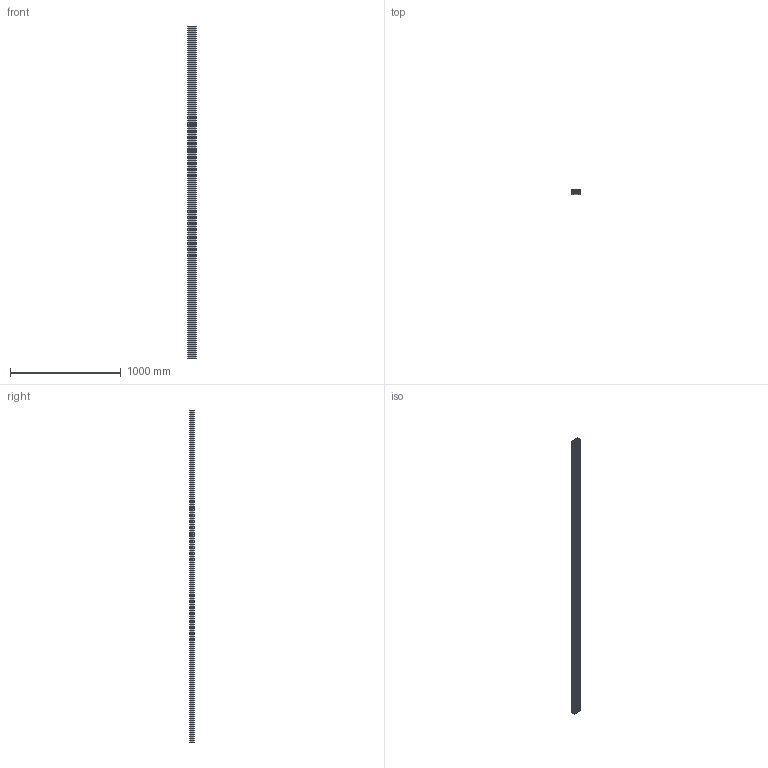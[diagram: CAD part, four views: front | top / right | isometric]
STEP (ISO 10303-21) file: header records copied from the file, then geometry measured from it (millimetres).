
FILE_DESCRIPTION (( 'STEP AP203' ), '1' );
FILE_NAME ('Rahmenleichtprofil - PL 80 - ArtNr 200009 3000.STEP', '2013-02-07T09:06:01', ( 'test' ), ( 'Microsoft' ), 'SwSTEP 2.0', 'SolidWorks 2012', '' );
FILE_SCHEMA (( 'CONFIG_CONTROL_DESIGN' ));
Length unit declared in the file: millimetre
Products named in the file (1): Rahmenleichtprofil - PL 80 - ArtNr 200009 3000
Bounding box: 80 x 40 x 3000 mm (x, y, z)
Volume: 3220172.9 mm3; surface area: 2848178.3 mm2
Topology: 1 solids, 1 shells, 193 faces, 573 edges, 382 vertices
Faces by surface type: plane 158, cylinder 35
Full cylindrical faces by diameter (mm): 10.2 x1
Entity records: 6505 total; most frequent: CARTESIAN_POINT 1148, ORIENTED_EDGE 1144, DIRECTION 1030, EDGE_CURVE 572, LINE 502, VECTOR 502, VERTEX_POINT 382, AXIS2_PLACEMENT_3D 264
